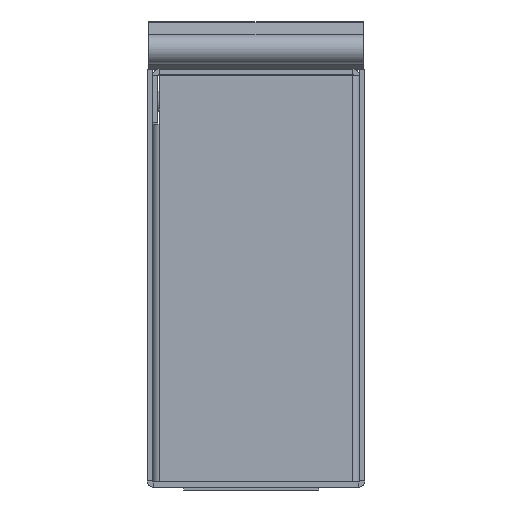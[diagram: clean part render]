
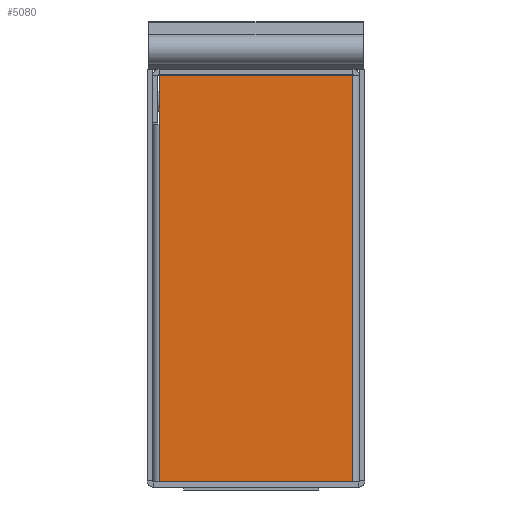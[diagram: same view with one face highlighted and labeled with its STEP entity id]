
A CAD part, left-side view. The second image highlights one B-rep face of the part: STEP entity #5080.
In plain terms, the highlighted planar face has unit normal (-1, 0, 0).
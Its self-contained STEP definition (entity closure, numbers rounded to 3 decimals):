
#2405=DIRECTION('',(0.,0.,1.));
#2406=VECTOR('',#2405,75.8);
#2407=CARTESIAN_POINT('',(-51.5,1.2,-38.5));
#2408=LINE('',#2407,#2406);
#2413=DIRECTION('',(0.,0.,1.));
#2414=VECTOR('',#2413,9.);
#2415=CARTESIAN_POINT('',(-51.5,37.4,28.3));
#2416=LINE('',#2415,#2414);
#2421=DIRECTION('',(0.,1.,0.));
#2422=VECTOR('',#2421,35.814);
#2423=CARTESIAN_POINT('',(-51.5,1.586,37.3));
#2424=LINE('',#2423,#2422);
#2425=DIRECTION('',(0.,1.,0.));
#2426=VECTOR('',#2425,0.386);
#2427=CARTESIAN_POINT('',(-51.5,1.2,37.3));
#2428=LINE('',#2427,#2426);
#2467=DIRECTION('',(0.,0.,-1.));
#2468=VECTOR('',#2467,66.8);
#2469=CARTESIAN_POINT('',(-51.5,37.4,28.3));
#2470=LINE('',#2469,#2468);
#2489=DIRECTION('',(0.,-1.,0.));
#2490=VECTOR('',#2489,36.2);
#2491=CARTESIAN_POINT('',(-51.5,37.4,-38.5));
#2492=LINE('',#2491,#2490);
#4206=CARTESIAN_POINT('',(-51.5,1.2,-38.5));
#4207=VERTEX_POINT('',#4206);
#4210=CARTESIAN_POINT('',(-51.5,1.2,37.3));
#4211=VERTEX_POINT('',#4210);
#4212=CARTESIAN_POINT('',(-51.5,1.586,37.3));
#4213=CARTESIAN_POINT('',(-51.5,37.4,37.3));
#4214=VERTEX_POINT('',#4212);
#4215=VERTEX_POINT('',#4213);
#4216=CARTESIAN_POINT('',(-51.5,37.4,-38.5));
#4217=VERTEX_POINT('',#4216);
#4218=CARTESIAN_POINT('',(-51.5,37.4,28.3));
#4219=VERTEX_POINT('',#4218);
#5062=CARTESIAN_POINT('',(-51.5,0.,-38.5));
#5063=DIRECTION('',(1.,0.,0.));
#5064=DIRECTION('',(0.,0.,-1.));
#5065=AXIS2_PLACEMENT_3D('',#5062,#5063,#5064);
#5066=PLANE('',#5065);
#5068=ORIENTED_EDGE('',*,*,#5067,.F.);
#5070=ORIENTED_EDGE('',*,*,#5069,.F.);
#5071=ORIENTED_EDGE('',*,*,#5053,.F.);
#5073=ORIENTED_EDGE('',*,*,#5072,.F.);
#5075=ORIENTED_EDGE('',*,*,#5074,.F.);
#5077=ORIENTED_EDGE('',*,*,#5076,.T.);
#5078=EDGE_LOOP('',(#5068,#5070,#5071,#5073,#5075,#5077));
#5079=FACE_OUTER_BOUND('',#5078,.F.);
#5080=ADVANCED_FACE('',(#5079),#5066,.F.);
#5053=EDGE_CURVE('',#4207,#4211,#2408,.T.);
#5067=EDGE_CURVE('',#4214,#4215,#2424,.T.);
#5069=EDGE_CURVE('',#4211,#4214,#2428,.T.);
#5072=EDGE_CURVE('',#4217,#4207,#2492,.T.);
#5074=EDGE_CURVE('',#4219,#4217,#2470,.T.);
#5076=EDGE_CURVE('',#4219,#4215,#2416,.T.);
